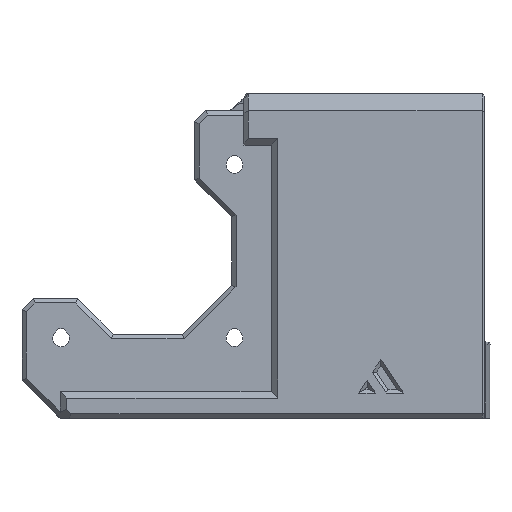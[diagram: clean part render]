
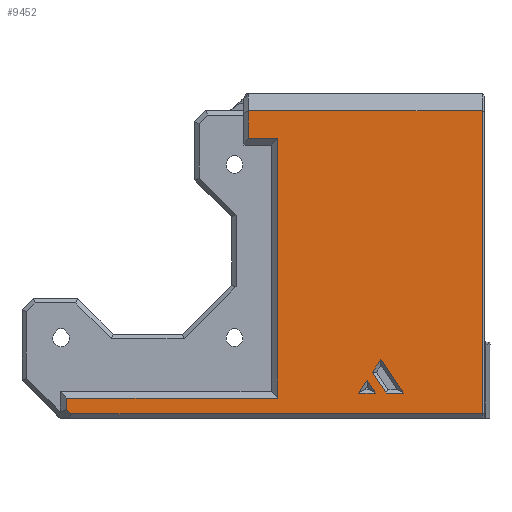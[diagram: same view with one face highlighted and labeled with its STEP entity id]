
A CAD part, left-side view. The second image highlights one B-rep face of the part: STEP entity #9452.
In plain terms, the highlighted planar face has unit normal (-1, 0, 0).
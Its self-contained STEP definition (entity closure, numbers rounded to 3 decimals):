
#682=FACE_BOUND('',#1815,.T.);
#683=FACE_BOUND('',#1816,.T.);
#1237=FACE_OUTER_BOUND('',#1814,.T.);
#1814=EDGE_LOOP('',(#7703,#7704,#7705,#7706,#7707,#7708,#7709,#7710,#7711));
#1815=EDGE_LOOP('',(#7712,#7713,#7714,#7715));
#1816=EDGE_LOOP('',(#7716,#7717,#7718));
#2518=LINE('',#18276,#3343);
#2519=LINE('',#18278,#3344);
#2520=LINE('',#18280,#3345);
#2521=LINE('',#18282,#3346);
#2522=LINE('',#18284,#3347);
#2523=LINE('',#18286,#3348);
#2524=LINE('',#18288,#3349);
#2525=LINE('',#18290,#3350);
#2526=LINE('',#18291,#3351);
#2527=LINE('',#18294,#3352);
#2528=LINE('',#18296,#3353);
#2529=LINE('',#18298,#3354);
#2530=LINE('',#18299,#3355);
#2531=LINE('',#18302,#3356);
#2532=LINE('',#18304,#3357);
#2533=LINE('',#18305,#3358);
#3343=VECTOR('',#12153,1000.);
#3344=VECTOR('',#12154,1000.);
#3345=VECTOR('',#12155,1000.);
#3346=VECTOR('',#12156,1000.);
#3347=VECTOR('',#12157,1000.);
#3348=VECTOR('',#12158,1000.);
#3349=VECTOR('',#12159,1000.);
#3350=VECTOR('',#12160,1000.);
#3351=VECTOR('',#12161,1000.);
#3352=VECTOR('',#12162,1000.);
#3353=VECTOR('',#12163,1000.);
#3354=VECTOR('',#12164,1000.);
#3355=VECTOR('',#12165,1000.);
#3356=VECTOR('',#12166,1000.);
#3357=VECTOR('',#12167,1000.);
#3358=VECTOR('',#12168,1000.);
#4352=VERTEX_POINT('',#18274);
#4353=VERTEX_POINT('',#18275);
#4354=VERTEX_POINT('',#18277);
#4355=VERTEX_POINT('',#18279);
#4356=VERTEX_POINT('',#18281);
#4357=VERTEX_POINT('',#18283);
#4358=VERTEX_POINT('',#18285);
#4359=VERTEX_POINT('',#18287);
#4360=VERTEX_POINT('',#18289);
#4361=VERTEX_POINT('',#18292);
#4362=VERTEX_POINT('',#18293);
#4363=VERTEX_POINT('',#18295);
#4364=VERTEX_POINT('',#18297);
#4365=VERTEX_POINT('',#18300);
#4366=VERTEX_POINT('',#18301);
#4367=VERTEX_POINT('',#18303);
#5527=EDGE_CURVE('',#4352,#4353,#2518,.T.);
#5528=EDGE_CURVE('',#4353,#4354,#2519,.T.);
#5529=EDGE_CURVE('',#4354,#4355,#2520,.T.);
#5530=EDGE_CURVE('',#4355,#4356,#2521,.T.);
#5531=EDGE_CURVE('',#4356,#4357,#2522,.T.);
#5532=EDGE_CURVE('',#4357,#4358,#2523,.T.);
#5533=EDGE_CURVE('',#4358,#4359,#2524,.T.);
#5534=EDGE_CURVE('',#4359,#4360,#2525,.T.);
#5535=EDGE_CURVE('',#4360,#4352,#2526,.T.);
#5536=EDGE_CURVE('',#4361,#4362,#2527,.T.);
#5537=EDGE_CURVE('',#4362,#4363,#2528,.T.);
#5538=EDGE_CURVE('',#4363,#4364,#2529,.T.);
#5539=EDGE_CURVE('',#4364,#4361,#2530,.T.);
#5540=EDGE_CURVE('',#4365,#4366,#2531,.T.);
#5541=EDGE_CURVE('',#4365,#4367,#2532,.T.);
#5542=EDGE_CURVE('',#4367,#4366,#2533,.T.);
#7703=ORIENTED_EDGE('',*,*,#5527,.T.);
#7704=ORIENTED_EDGE('',*,*,#5528,.T.);
#7705=ORIENTED_EDGE('',*,*,#5529,.T.);
#7706=ORIENTED_EDGE('',*,*,#5530,.T.);
#7707=ORIENTED_EDGE('',*,*,#5531,.T.);
#7708=ORIENTED_EDGE('',*,*,#5532,.T.);
#7709=ORIENTED_EDGE('',*,*,#5533,.T.);
#7710=ORIENTED_EDGE('',*,*,#5534,.T.);
#7711=ORIENTED_EDGE('',*,*,#5535,.T.);
#7712=ORIENTED_EDGE('',*,*,#5536,.T.);
#7713=ORIENTED_EDGE('',*,*,#5537,.T.);
#7714=ORIENTED_EDGE('',*,*,#5538,.T.);
#7715=ORIENTED_EDGE('',*,*,#5539,.T.);
#7716=ORIENTED_EDGE('',*,*,#5540,.F.);
#7717=ORIENTED_EDGE('',*,*,#5541,.T.);
#7718=ORIENTED_EDGE('',*,*,#5542,.T.);
#8953=PLANE('',#10275);
#9452=ADVANCED_FACE('',(#1237,#682,#683),#8953,.T.);
#10275=AXIS2_PLACEMENT_3D('',#18273,#12151,#12152);
#12151=DIRECTION('center_axis',(-1.,0.,0.));
#12152=DIRECTION('ref_axis',(0.,-1.,0.));
#12153=DIRECTION('',(0.,1.,0.));
#12154=DIRECTION('',(0.,0.,-1.));
#12155=DIRECTION('',(0.,-0.707,-0.707));
#12156=DIRECTION('',(0.,-1.,0.));
#12157=DIRECTION('',(0.,0.,1.));
#12158=DIRECTION('',(0.,1.,0.));
#12159=DIRECTION('',(0.,0.,-1.));
#12160=DIRECTION('',(0.,-1.,0.));
#12161=DIRECTION('',(0.,0.,-1.));
#12162=DIRECTION('',(0.,1.,0.));
#12163=DIRECTION('',(0.,0.555,0.832));
#12164=DIRECTION('',(0.,-0.555,0.832));
#12165=DIRECTION('',(0.,-0.555,-0.832));
#12166=DIRECTION('',(0.,0.555,0.832));
#12167=DIRECTION('',(0.,1.,0.));
#12168=DIRECTION('',(0.,-0.555,0.832));
#18273=CARTESIAN_POINT('Origin',(-1.,0.,0.));
#18274=CARTESIAN_POINT('',(-1.,37.,3.6));
#18275=CARTESIAN_POINT('',(-1.,74.7,3.6));
#18276=CARTESIAN_POINT('',(-1.,80.7,3.6));
#18277=CARTESIAN_POINT('',(-1.,74.7,1.558));
#18278=CARTESIAN_POINT('',(-1.,74.7,2.758));
#18279=CARTESIAN_POINT('',(-1.,73.942,0.8));
#18280=CARTESIAN_POINT('',(-1.,36.571,-36.571));
#18281=CARTESIAN_POINT('',(-1.,0.4,0.8));
#18282=CARTESIAN_POINT('',(-1.,0.,0.8));
#18283=CARTESIAN_POINT('',(-1.,0.4,55.));
#18284=CARTESIAN_POINT('',(-1.,0.4,55.));
#18285=CARTESIAN_POINT('',(-1.,42.2,55.));
#18286=CARTESIAN_POINT('',(-1.,0.,55.));
#18287=CARTESIAN_POINT('',(-1.,42.2,50.));
#18288=CARTESIAN_POINT('',(-1.,42.2,50.));
#18289=CARTESIAN_POINT('',(-1.,37.,50.));
#18290=CARTESIAN_POINT('',(-1.,0.,50.));
#18291=CARTESIAN_POINT('',(-1.,37.,0.));
#18292=CARTESIAN_POINT('',(-1.,14.5,4.5));
#18293=CARTESIAN_POINT('',(-1.,17.577,4.5));
#18294=CARTESIAN_POINT('',(-1.,0.,4.5));
#18295=CARTESIAN_POINT('',(-1.,20.039,8.192));
#18296=CARTESIAN_POINT('',(-1.,10.092,-6.728));
#18297=CARTESIAN_POINT('',(-1.,18.5,10.5));
#18298=CARTESIAN_POINT('',(-1.,17.654,11.769));
#18299=CARTESIAN_POINT('',(-1.,7.962,-5.308));
#18300=CARTESIAN_POINT('',(-1.,19.5,4.5));
#18301=CARTESIAN_POINT('',(-1.,21.,6.75));
#18302=CARTESIAN_POINT('',(-1.,11.423,-7.615));
#18303=CARTESIAN_POINT('',(-1.,22.5,4.5));
#18304=CARTESIAN_POINT('',(-1.,0.,4.5));
#18305=CARTESIAN_POINT('',(-1.,17.654,11.769));
